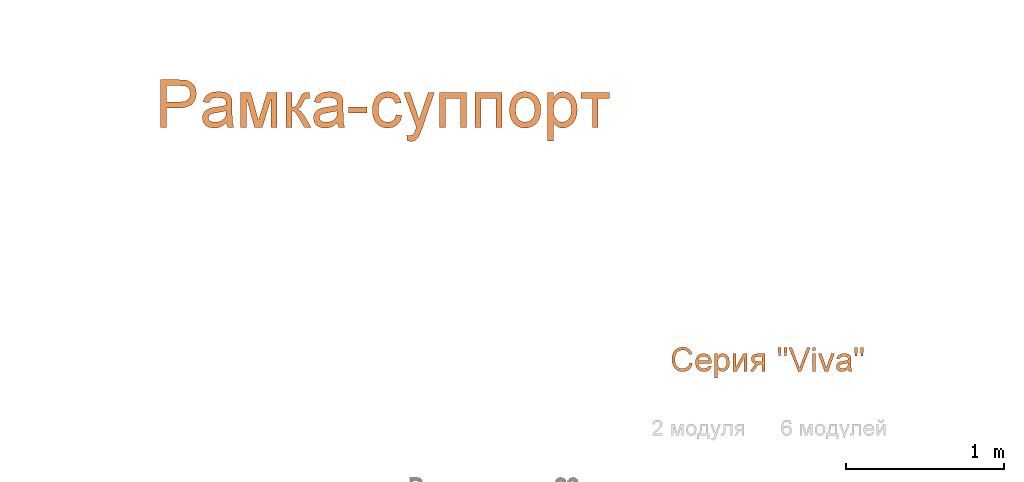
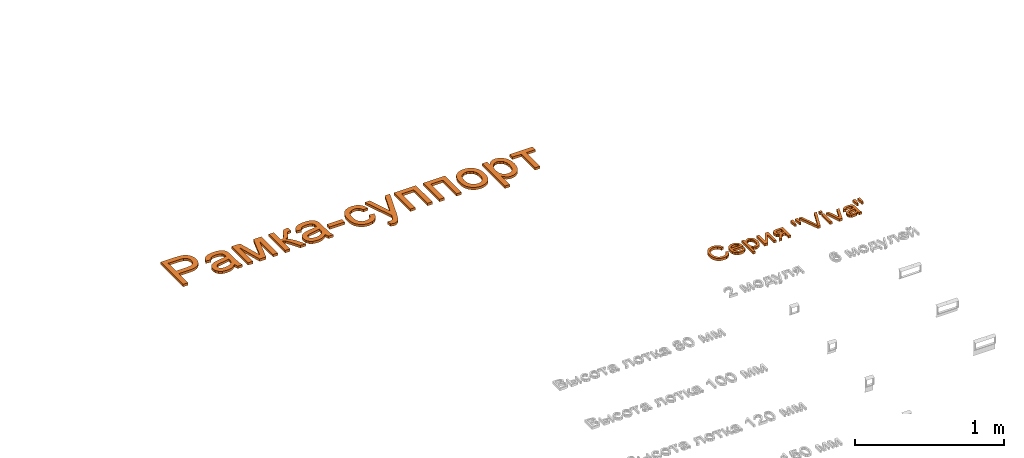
# One storey, part 21 of 71: 2 proxies.
"""IFC2X3 building model written with IfcOpenShell, lengths in millimetres."""

from ifc_helpers import new_model, entity, si_unit, converted_unit, derived_unit, direction, frame, frame_2d, origin, place, context, subcontext, project, spatial, polyline, rectangle, outline, extrude, element, save


model = new_model("IFC2X3")

# Units and contexts
model_context = context("Model", 3, precision=0.01, world=origin(), true_north=direction((6.12303176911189e-17, 1.0)))
body_context = subcontext(model_context, "Body", "Model", "MODEL_VIEW")
ifc_project = project(units=[si_unit("LENGTHUNIT", "METRE", prefix="MILLI"), si_unit("AREAUNIT", "SQUARE_METRE"), si_unit("VOLUMEUNIT", "CUBIC_METRE"), converted_unit("PLANEANGLEUNIT", "DEGREE", entity("IfcRatioMeasure", 0.0174532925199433), si_unit("PLANEANGLEUNIT", "RADIAN"), dimensions=[0, 0, 0, 0, 0, 0, 0]), si_unit("MASSUNIT", "GRAM", prefix="KILO"), derived_unit("MASSDENSITYUNIT", [(si_unit("MASSUNIT", "GRAM", prefix="KILO"), 1), (si_unit("LENGTHUNIT", "METRE"), -3)]), si_unit("TIMEUNIT", "SECOND"), si_unit("FREQUENCYUNIT", "HERTZ"), si_unit("THERMODYNAMICTEMPERATUREUNIT", "DEGREE_CELSIUS"), derived_unit("THERMALTRANSMITTANCEUNIT", [(si_unit("MASSUNIT", "GRAM", prefix="KILO"), 1), (si_unit("THERMODYNAMICTEMPERATUREUNIT", "KELVIN"), -1), (si_unit("TIMEUNIT", "SECOND"), -3)]), derived_unit("VOLUMETRICFLOWRATEUNIT", [(si_unit("LENGTHUNIT", "METRE"), 3), (si_unit("TIMEUNIT", "SECOND"), -1)]), si_unit("ELECTRICCURRENTUNIT", "AMPERE"), si_unit("ELECTRICVOLTAGEUNIT", "VOLT"), si_unit("POWERUNIT", "WATT"), si_unit("FORCEUNIT", "NEWTON", prefix="KILO"), si_unit("ILLUMINANCEUNIT", "LUX"), si_unit("LUMINOUSFLUXUNIT", "LUMEN"), si_unit("LUMINOUSINTENSITYUNIT", "CANDELA"), derived_unit("USERDEFINED", [(si_unit("MASSUNIT", "GRAM", prefix="KILO"), -1), (si_unit("LENGTHUNIT", "METRE"), -2), (si_unit("TIMEUNIT", "SECOND"), 3), (si_unit("LUMINOUSFLUXUNIT", "LUMEN"), 1)]), derived_unit("LINEARVELOCITYUNIT", [(si_unit("LENGTHUNIT", "METRE"), 1), (si_unit("TIMEUNIT", "SECOND"), -1)]), si_unit("PRESSUREUNIT", "PASCAL"), derived_unit("USERDEFINED", [(si_unit("LENGTHUNIT", "METRE"), -2), (si_unit("MASSUNIT", "GRAM", prefix="KILO"), 1), (si_unit("TIMEUNIT", "SECOND"), -2)])], contexts=[model_context])

# Site, building, storey
site_placement = place(None, origin())
site = spatial("IfcSite", under=ifc_project, at=site_placement, Name="Default", CompositionType="ELEMENT")
building_placement = place(site_placement, origin())
building = spatial("IfcBuilding", under=site, at=building_placement, Name="Наименование здания", CompositionType="ELEMENT")
storey_placement = place(building_placement, origin())
storey = spatial("IfcBuildingStorey", under=building, at=storey_placement, Name="Этаж 01", CompositionType="ELEMENT", Elevation=0.0)

# Proxies
proxy_1_placement = place(storey_placement, origin())
element("IfcBuildingElementProxy", 1, at=proxy_1_placement, inside=storey, Name="Текст модели:300 мм Arial", ObjectType="Текст модели:300 мм Arial", context=body_context, shape_type="SweptSolid", body=[
    extrude(outline(polyline([(-152.936822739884, -188.889470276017), (-115.265706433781, -188.889470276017), (-115.265706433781, -66.4583422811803), (-38.6726750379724, -66.4583422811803), (-9.4743409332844, -64.7936762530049), (14.8449582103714, -59.7996781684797), (34.2852223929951, -51.4763480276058), (48.8464516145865, -39.82368583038), (59.4529493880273, -25.765995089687), (67.0290192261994, -10.2275793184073), (71.5746611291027, 6.79156148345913), (73.089875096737, 25.2914273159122), (70.8457949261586, 46.7481446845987), (64.1135544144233, 66.3838461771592), (53.6932969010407, 83.0305064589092), (40.3851657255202, 95.5201001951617), (23.8580670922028, 104.24810053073), (3.78090720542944, 109.609980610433), (-41.24784900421, 112.479460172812), (-152.936822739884, 112.479460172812), (-152.936822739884, -188.889470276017)]), holes=[polyline([(-115.265706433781, -28.787225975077), (-115.265706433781, 74.8083438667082), (-37.3482998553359, 74.8083438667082), (0.322816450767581, 72.2331699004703), (14.55065261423, 65.9055995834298), (25.7434623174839, 55.1634453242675), (32.9999346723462, 40.8896239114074), (35.4187587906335, 23.9670521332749), (31.3168745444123, 1.69179732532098), (19.0112218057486, -14.954862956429), (-3.06169790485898, -25.329135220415), (-36.4653830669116, -28.787225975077), (-115.265706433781, -28.787225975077)])]), frame((449.396579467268, -9460.24166573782, 0.0)), (0.0, 0.0, 1.0), 20.0),
    extrude(outline(polyline([(109.632642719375, 21.6400019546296), (139.414275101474, 21.6400019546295), (151.326928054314, 57.3779608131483), (118.904502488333, 60.2746899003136), (56.211839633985, 79.1557794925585), (11.7487931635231, 93.9767949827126), (-20.103593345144, 102.655348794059), (-34.933333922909, 102.809492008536), (-48.0122402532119, 99.7818866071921), (-60.1401120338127, 92.6854820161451), (-72.1167489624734, 80.6332276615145), (-83.2645025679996, 63.0696262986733), (-92.9057243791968, 39.4391806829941), (-99.5047989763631, 13.6507300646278), (-101.433043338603, -10.1076835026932), (-98.7108160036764, -30.9664596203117), (-91.3584755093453, -48.055997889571), (-79.0880939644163, -62.4320339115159), (-61.6117434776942, -75.1503032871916), (-45.2318456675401, -40.9014260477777), (-57.7232627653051, -28.8462633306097), (-63.8802662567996, -15.5288712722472), (-64.0809432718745, 1.05752027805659), (-58.7033809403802, 22.9196814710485), (-48.4543113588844, 45.0581371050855), (-35.2038116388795, 58.9833769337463), (-22.308132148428, 62.8863994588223), (-5.53851375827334, 60.0303874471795), (2.34896544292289, 57.1685587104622), (0.499246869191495, 29.5158477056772), (-6.02711866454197, -8.90943813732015), (-10.9597015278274, -41.6226999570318), (-7.57436753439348, -70.5550904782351), (-1.92341912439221, -83.6165466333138), (6.95581170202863, -95.3692396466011), (18.6997796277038, -104.984286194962), (32.9449393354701, -111.632802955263), (58.4832707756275, -115.114112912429), (82.3289352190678, -107.968266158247), (102.393728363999, -90.1778125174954), (116.58944590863, -61.7253018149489), (121.426052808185, -41.3405887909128), (122.301469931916, -21.0896604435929), (118.581674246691, -0.315226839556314), (109.632642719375, 21.6400019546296)]), holes=[polyline([(38.156725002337, 45.4653078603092), (48.2080259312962, 41.8822052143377), (63.7910324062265, 35.1173539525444), (73.9644845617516, 27.0146559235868), (82.0235571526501, 13.7030805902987), (86.8892476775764, -3.19741411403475), (87.6483302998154, -22.2966308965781), (83.3875791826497, -42.2043724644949), (75.4157574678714, -59.6632727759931), (65.2277634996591, -70.8575601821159), (53.8589743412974, -75.938469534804), (42.3447670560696, -75.0572356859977), (30.222712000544, -65.5876072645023), (25.4413639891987, -48.5213358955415), (29.8969753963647, -15.8429744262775), (38.156725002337, 45.4653078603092)])]), frame((655.643641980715, -9523.71431118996, 0.0), z_axis=(0.0, 0.0, 1.0), x_axis=(0.316227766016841, -0.948683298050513, 0.0)), (0.0, 0.0, 1.0), 20.0),
    extrude(outline(polyline([(-121.751961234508, -115.350814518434), (99.5658470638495, -115.350814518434), (99.5658470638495, -77.6796982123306), (-87.1710536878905, -77.6796982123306), (99.5658470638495, -25.8819132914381), (99.5658470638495, 23.5614268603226), (-78.6361913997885, 77.7136565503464), (99.5658470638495, 77.7136565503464), (99.5658470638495, 115.38477285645), (-121.751961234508, 115.38477285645), (-121.751961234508, 53.2862920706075), (55.4200076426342, -0.571632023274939), (-121.751961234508, -50.5300069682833), (-121.751961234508, -115.350814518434)])), frame((915.661751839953, -9549.56528894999, 0.0), z_axis=(0.0, 0.0, 1.0), x_axis=(0.0, -1.0, 0.0)), (0.0, 0.0, 1.0), 20.0),
    extrude(outline(polyline([(-92.1976330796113, -85.1594264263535), (129.120175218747, -85.1594264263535), (129.120175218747, -47.48831012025), (25.5246053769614, -47.48831012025), (27.2628478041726, -36.5438207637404), (32.4775750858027, -27.2548003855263), (61.2091589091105, -7.38917264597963), (129.120175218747, 32.1213536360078), (129.120175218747, 74.9428178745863), (59.7376309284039, 34.62295120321), (28.8539374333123, 11.2992327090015), (19.4959391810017, -0.528173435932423), (14.1938399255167, -12.4659441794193), (1.0604526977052, 8.83442334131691), (-25.7581447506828, 24.0279497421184), (-50.5533912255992, 36.9773959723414), (-54.5265167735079, 55.371495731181), (-54.3057875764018, 65.5250387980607), (-92.1976330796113, 65.5250387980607), (-92.1976330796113, 58.3145516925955), (-89.3281535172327, 30.7601902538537), (-78.2549054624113, 15.6034520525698), (-44.2258209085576, -1.57663712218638), (-18.0326228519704, -13.4776196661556), (-4.78887102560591, -22.2516052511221), (0.287900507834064, -32.1660250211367), (1.98015768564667, -47.48831012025), (-92.1976330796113, -47.48831012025), (-92.1976330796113, -85.1594264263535)])), frame((1172.71262558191, -9520.01096079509, 0.0), z_axis=(0.0, 0.0, 1.0), x_axis=(0.0, -1.0, 0.0)), (0.0, 0.0, 1.0), 20.0),
    extrude(outline(polyline([(109.632642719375, 21.6400019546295), (139.414275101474, 21.6400019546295), (151.326928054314, 57.3779608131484), (118.904502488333, 60.2746899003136), (56.211839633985, 79.1557794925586), (11.7487931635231, 93.9767949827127), (-20.103593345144, 102.655348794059), (-34.933333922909, 102.809492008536), (-48.0122402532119, 99.7818866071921), (-60.1401120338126, 92.6854820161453), (-72.1167489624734, 80.6332276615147), (-83.2645025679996, 63.0696262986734), (-92.9057243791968, 39.4391806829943), (-99.5047989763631, 13.6507300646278), (-101.433043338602, -10.1076835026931), (-98.7108160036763, -30.9664596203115), (-91.3584755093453, -48.0559978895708), (-79.0880939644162, -62.4320339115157), (-61.6117434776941, -75.1503032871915), (-45.23184566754, -40.9014260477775), (-57.7232627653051, -28.8462633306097), (-63.8802662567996, -15.5288712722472), (-64.0809432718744, 1.05752027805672), (-58.7033809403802, 22.9196814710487), (-48.4543113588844, 45.0581371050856), (-35.2038116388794, 58.9833769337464), (-22.3081321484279, 62.8863994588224), (-5.53851375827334, 60.0303874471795), (2.34896544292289, 57.1685587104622), (0.499246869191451, 29.5158477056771), (-6.02711866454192, -8.90943813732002), (-10.9597015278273, -41.6226999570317), (-7.57436753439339, -70.5550904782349), (-1.92341912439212, -83.6165466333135), (6.95581170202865, -95.369239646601), (18.6997796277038, -104.984286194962), (32.9449393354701, -111.632802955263), (58.4832707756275, -115.114112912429), (82.3289352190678, -107.968266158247), (102.393728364, -90.1778125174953), (116.58944590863, -61.7253018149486), (121.426052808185, -41.3405887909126), (122.301469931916, -21.0896604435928), (118.581674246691, -0.315226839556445), (109.632642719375, 21.6400019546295)]), holes=[polyline([(38.156725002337, 45.4653078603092), (48.2080259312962, 41.8822052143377), (63.7910324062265, 35.1173539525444), (73.9644845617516, 27.014655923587), (82.0235571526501, 13.7030805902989), (86.8892476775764, -3.19741411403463), (87.6483302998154, -22.296630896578), (83.3875791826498, -42.2043724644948), (75.4157574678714, -59.6632727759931), (65.2277634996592, -70.8575601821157), (53.8589743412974, -75.938469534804), (42.3447670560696, -75.0572356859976), (30.222712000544, -65.5876072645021), (25.4413639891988, -48.5213358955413), (29.8969753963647, -15.8429744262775), (38.156725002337, 45.4653078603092)])]), frame((1357.26818318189, -9523.71431118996, 0.0), z_axis=(0.0, 0.0, 1.0), x_axis=(0.316227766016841, -0.948683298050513, 0.0)), (0.0, 0.0, 1.0), 20.0),
    extrude(rectangle(XDim=117.722238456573, YDim=37.6711163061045, at=frame_2d((1.35003119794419e-13, 0.0), x_axis=(1.0, 0.0))), frame((1541.96103959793, -9540.82667663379, 0.0)), (0.0, 0.0, 1.0), 20.0),
    extrude(outline(polyline([(7.89345199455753, -67.9185040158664), (1.30746610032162, -105.307157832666), (36.419533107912, -105.129492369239), (66.426166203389, -93.7180090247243), (89.6203783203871, -72.4909647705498), (104.295182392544, -42.8666165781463), (108.744041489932, -22.1296295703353), (109.012197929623, -2.39079348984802), (105.099651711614, 16.3498916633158), (97.0064028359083, 34.0924258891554), (84.7908025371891, 50.1981439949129), (68.5112020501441, 64.0283807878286), (48.1676013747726, 75.5831362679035), (23.7600005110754, 84.8624104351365), (-9.1258523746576, 91.9768700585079), (-39.4342298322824, 92.2735186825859), (-66.133380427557, 85.2903014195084), (-88.1915527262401, 70.5651633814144), (-105.030198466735, 50.0081893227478), (-116.070769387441, 25.529463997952), (-121.043524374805, -6.24521208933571), (-115.34811938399, -34.6264209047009), (-99.4495521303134, -58.6241333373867), (-73.8128203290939, -77.2483202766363), (-58.2261192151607, -42.6312523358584), (-71.9223983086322, -31.2637177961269), (-80.0505148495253, -17.6267753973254), (-82.7485339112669, -2.29379634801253), (-80.1545205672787, 14.1618481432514), (-68.5424602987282, 36.0587922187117), (-49.5129801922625, 50.4174204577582), (-22.8433391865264, 55.3984734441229), (11.6892037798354, 49.1626917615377), (44.2232338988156, 34.8429282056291), (63.6316107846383, 15.9617898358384), (71.3115889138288, -6.25578690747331), (68.6604227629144, -30.5848655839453), (60.1596823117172, -48.378067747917), (47.1729034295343, -61.113819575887), (29.7381415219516, -67.9185040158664), (7.89345199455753, -67.9185040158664)])), frame((1721.88108697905, -9541.54818519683, 0.0), z_axis=(0.0, 0.0, -1.0), x_axis=(-0.29429293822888, -0.955715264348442, 0.0)), (0.0, 0.0, -1.0), 20.0),
    extrude(outline(polyline([(-30.233044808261, -116.261559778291), (-6.72714131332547, -116.261559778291), (8.40142307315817, -111.009090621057), (20.3397113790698, -102.090769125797), (29.5333604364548, -89.1150797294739), (36.4280070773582, -71.6905068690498), (46.1891809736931, -19.5286581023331), (76.2647156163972, 217.925070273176), (37.6271962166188, 210.024746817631), (20.6453238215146, 75.2798294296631), (14.85250561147, 29.7871028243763), (-9.48248966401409, 74.9772109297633), (-75.6903047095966, 186.854395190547), (-114.616163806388, 178.895114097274), (7.98624384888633, -21.1069264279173), (6.93053364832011, -30.6350334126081), (2.39540160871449, -59.8745671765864), (-6.02379511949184, -73.4241147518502), (-22.7076550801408, -81.0785894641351), (-42.1130088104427, -81.667014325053), (-30.233044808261, -116.261559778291)])), frame((1908.01282184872, -9626.04286199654, 0.0), z_axis=(0.0, 0.0, 1.0), x_axis=(0.979728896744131, -0.200327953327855, 0.0)), (0.0, 0.0, 1.0), 20.0),
    extrude(outline(polyline([(-120.076683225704, -84.7600116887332), (101.241125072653, -84.7600116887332), (101.241125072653, -47.0888953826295), (-82.4055669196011, -47.0888953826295), (-82.4055669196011, 47.0888953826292), (101.241125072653, 47.0888953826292), (101.241125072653, 84.7600116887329), (-120.076683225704, 84.7600116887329), (-120.076683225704, -84.7600116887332)])), frame((2142.34445572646, -9547.89001094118, 0.0), z_axis=(0.0, 0.0, 1.0), x_axis=(0.0, -1.0, 0.0)), (0.0, 0.0, 1.0), 20.0),
    extrude(outline(polyline([(-120.076683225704, -84.7600116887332), (101.241125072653, -84.7600116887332), (101.241125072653, -47.0888953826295), (-82.4055669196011, -47.0888953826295), (-82.4055669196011, 47.0888953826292), (101.241125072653, 47.0888953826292), (101.241125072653, 84.7600116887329), (-120.076683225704, 84.7600116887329), (-120.076683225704, -84.7600116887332)])), frame((2368.37115356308, -9547.89001094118, 0.0), z_axis=(0.0, 0.0, 1.0), x_axis=(0.0, -1.0, 0.0)), (0.0, 0.0, 1.0), 20.0),
    extrude(outline(polyline([(-0.229377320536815, -95.3874471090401), (26.1479590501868, -95.3874471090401), (49.4793057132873, -91.7658632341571), (69.7646626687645, -84.5226954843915), (87.0040299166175, -73.6579438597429), (100.935147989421, -59.8043433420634), (111.295757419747, -43.5946289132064), (118.085858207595, -25.0288005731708), (121.305450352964, -4.10685832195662), (119.659258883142, 22.644595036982), (111.137222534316, 47.6856680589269), (96.2709912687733, 69.2676051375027), (75.592215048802, 85.6416506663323), (47.2756049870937, 96.6589942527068), (9.49587219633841, 102.170825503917), (-15.444044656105, 102.059101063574), (-37.7671193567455, 98.3167797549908), (-57.4733519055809, 90.9438615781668), (-74.5627423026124, 79.9403465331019), (-88.5474044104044, 66.0072735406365), (-98.9394520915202, 49.8456815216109), (-105.738885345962, 31.4555704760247), (-108.945704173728, 10.8369404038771), (-108.636916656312, -8.04907106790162), (-105.175445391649, -25.6466417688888), (-98.5612903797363, -41.9557716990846), (-88.7944516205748, -56.976460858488), (-72.9824052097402, -72.2927248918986), (-52.9508773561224, -83.799977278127), (-28.6998680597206, -91.4982180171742), (-0.229377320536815, -95.3874471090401)]), holes=[polyline([(2.13700462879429, -57.7906566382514), (-31.5841834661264, -51.2335049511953), (-54.9205080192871, -36.6132063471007), (-68.1007471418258, -16.0346845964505), (-71.3536789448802, 8.39713653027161), (-64.9677103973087, 31.9545293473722), (-49.1835960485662, 50.643985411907), (-24.4231993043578, 62.2256502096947), (8.89161642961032, 64.4596692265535), (43.3745569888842, 57.8530781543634), (67.0871689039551, 43.2083576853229), (80.4074567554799, 22.6576120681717), (83.7134251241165, -1.66705444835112), (77.3113738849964, -25.4722462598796), (61.5266638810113, -44.170880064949), (36.4412293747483, -55.6485016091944), (2.13700462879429, -57.7906566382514)])]), frame((2595.42209618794, -9532.52327343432, 0.0), z_axis=(0.0, 0.0, 1.0), x_axis=(0.0647659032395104, -0.997900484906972, 0.0)), (0.0, 0.0, 1.0), 20.0),
    extrude(outline(polyline([(-99.8542099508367, -188.324679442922), (-62.1830936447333, -188.324679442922), (-62.1830936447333, -74.1341081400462), (-51.5421069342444, -87.6445744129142), (-38.3075521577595, -98.5982608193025), (-22.847311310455, -105.854733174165), (-5.52926638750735, -108.273557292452), (18.8889010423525, -104.659116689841), (42.1114519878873, -93.8157948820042), (62.0506561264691, -76.1942473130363), (76.6187831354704, -52.2451294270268), (85.5307244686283, -23.4307721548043), (88.5013715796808, 8.78649357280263), (85.8710153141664, 39.0815758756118), (77.9799465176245, 66.8382724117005), (64.9201356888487, 90.345931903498), (46.7835533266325, 107.893903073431), (24.5082985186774, 118.819998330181), (-0.967529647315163, 122.462030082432), (-20.0973933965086, 119.859264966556), (-36.1370483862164, 112.050969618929), (-49.8958350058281, 99.0371440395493), (-62.1830936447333, 80.8177882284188), (-62.1830936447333, 117.753140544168), (-99.8542099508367, 117.753140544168), (-99.8542099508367, -188.324679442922)]), holes=[polyline([(-62.1830936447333, 5.32840281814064), (-57.8328890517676, 39.4954431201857), (-44.7822752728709, 64.4470394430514), (-26.084672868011, 79.7049451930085), (-4.79350239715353, 84.7909137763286), (16.4148946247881, 80.0084478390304), (34.4227182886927, 65.6610500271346), (46.7283710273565, 41.7119321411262), (50.8302552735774, 8.12430598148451), (46.6272034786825, -26.9164540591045), (34.0180480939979, -51.3990008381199), (15.5227807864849, -65.8015809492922), (-6.33860677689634, -70.6024409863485), (-27.8505064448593, -65.9671278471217), (-45.885921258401, -52.0611884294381), (-58.1088005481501, -28.4431643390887), (-62.1830936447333, 5.32840281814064)])]), frame((2840.22763703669, -9545.56646825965, 0.0)), (0.0, 0.0, 1.0), 20.0),
    extrude(outline(polyline([(-74.165010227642, -89.4689012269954), (-36.4938939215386, -89.4689012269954), (-36.4938939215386, -18.8355581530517), (147.152798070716, -18.8355581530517), (147.152798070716, 18.8355581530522), (-36.4938939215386, 18.8355581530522), (-36.4938939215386, 89.4689012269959), (-74.165010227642, 89.4689012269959), (-74.165010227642, -89.4689012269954)])), frame((3041.74235753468, -9501.97833794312, 0.0), z_axis=(0.0, 0.0, 1.0), x_axis=(0.0, -1.0, 0.0)), (0.0, 0.0, 1.0), 20.0),
])
proxy_2_placement = place(storey_placement, origin())
element("IfcBuildingElementProxy", 2, at=proxy_2_placement, inside=storey, Name="Текст модели:150 мм Arial", ObjectType="Текст модели:150 мм Arial", context=body_context, shape_type="SweptSolid", body=[
    extrude(outline(polyline([(2.68252101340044, -55.5272408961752), (0.569895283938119, -74.8636369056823), (24.1738038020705, -74.4885152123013), (43.9938289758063, -67.3949902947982), (59.5002128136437, -54.1006478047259), (70.1631973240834, -35.1230733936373), (75.5684851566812, -13.8106158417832), (74.7558263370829, 5.04294074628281), (68.1237380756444, 21.7638876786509), (56.070737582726, 36.67851626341), (39.964932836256, 49.0882033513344), (21.1744318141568, 58.2943257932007), (-0.168059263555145, 63.9714850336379), (-20.2818307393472, 64.4164020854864), (-38.4798456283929, 59.7431641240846), (-54.0750669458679, 50.0658583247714), (-66.5405339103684, 36.3111227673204), (-75.3492857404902, 19.4055955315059), (-79.9019211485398, -0.950856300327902), (-77.7012035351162, -20.0337571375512), (-69.0662723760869, -37.152354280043), (-54.3162671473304, -51.6158950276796), (-43.4621992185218, -35.5812125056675), (-54.0046473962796, -24.6190736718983), (-59.6669952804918, -12.9440693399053), (-60.7285861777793, -0.332714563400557), (-57.4687633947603, 13.4384756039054), (-49.8682812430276, 27.8608393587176), (-39.5197541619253, 38.1582391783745), (-27.1289583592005, 44.2580751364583), (-13.4016700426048, 46.0877473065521), (14.4845942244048, 40.6867797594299), (30.2608677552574, 33.2090290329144), (42.830410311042, 23.9046375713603), (51.5986154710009, 12.8261465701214), (55.9708768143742, 0.0260972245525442), (56.3667010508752, -13.4889612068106), (53.2055948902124, -26.7124794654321), (45.4648414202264, -40.5952158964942), (34.2795364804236, -50.3750178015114), (19.9264922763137, -55.5272408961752), (2.68252101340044, -55.5272408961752)])), frame((3587.40453608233, -11113.7067682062, 0.0), z_axis=(0.0, 0.0, -1.0), x_axis=(-0.353343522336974, -0.935493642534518, 0.0)), (0.0, 0.0, -1.0), 20.0),
    extrude(outline(polyline([(-12.1519235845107, -30.5627594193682), (-23.3028322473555, -45.4710024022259), (-8.67600558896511, -50.3662606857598), (6.18277634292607, -49.969826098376), (20.8164252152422, -44.1721168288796), (34.7678526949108, -32.8635510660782), (47.4570640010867, -14.3885693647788), (51.243072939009, 5.61202992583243), (45.9060763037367, 25.8663302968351), (31.2262708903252, 45.1024152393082), (10.9154740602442, 59.6770093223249), (-9.99269287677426, 64.6676720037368), (-29.9463894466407, 60.6331852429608), (-47.393775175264, 48.1323309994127), (-58.8653278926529, 30.7635073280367), (-61.9660241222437, 11.0147969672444), (-56.156056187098, -9.52443743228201), (-40.8956164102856, -29.2648332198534), (-37.1706876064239, -32.7160206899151), (21.6964908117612, 28.1133970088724), (29.5607979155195, 15.9656989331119), (31.7422008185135, 3.31507577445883), (28.7208128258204, -8.97205129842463), (20.9767472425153, -20.029261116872), (5.30526907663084, -30.5627594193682), (-12.1519235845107, -30.5627594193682)]), holes=[polyline([(8.16121838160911, 41.2120477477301), (-37.6840592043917, -6.16140575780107), (-43.0633748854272, 2.58957596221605), (-44.7058228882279, 11.1286426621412), (-41.8277013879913, 23.6248066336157), (-33.8073361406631, 35.0865524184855), (-23.7122716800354, 42.98550357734), (-12.6145549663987, 46.8552978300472), (-1.62109020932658, 46.3720932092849), (8.16121838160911, 41.2120477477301)])]), frame((3727.8448471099, -11143.9162327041, 0.0), z_axis=(0.0, 0.0, -1.0), x_axis=(-0.695421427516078, -0.718602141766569, 0.0)), (0.0, 0.0, -1.0), 20.0),
    extrude(outline(polyline([(-51.3898957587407, -92.5503727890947), (-32.5543376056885, -92.5503727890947), (-32.5543376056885, -35.4550871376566), (-20.6165668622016, -47.6871634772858), (-4.22742397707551, -52.5248117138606), (7.98165973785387, -50.7175914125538), (19.5929352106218, -45.2959305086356), (29.5625372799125, -36.4851567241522), (36.8466007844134, -24.5105977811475), (41.302571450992, -10.1034191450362), (42.7878950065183, 6.0052137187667), (37.5271824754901, 35.0311031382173), (30.9972770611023, 46.7849328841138), (21.9289858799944, 55.558918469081), (10.7913584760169, 61.0219660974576), (-1.94655560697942, 62.8429819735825), (-19.53131497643, 57.6374517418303), (-32.5543376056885, 42.0208610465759), (-32.5543376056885, 60.4885372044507), (-51.3898957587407, 60.4885372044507), (-51.3898957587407, -92.5503727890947)]), holes=[polyline([(-32.5543376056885, 4.27616834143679), (-30.3792353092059, 21.3596884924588), (-23.8539284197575, 33.8354866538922), (-14.5051272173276, 41.4644395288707), (-3.85954198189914, 44.0074238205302), (6.74465652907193, 41.61619085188), (15.7485683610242, 34.4424919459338), (21.9013947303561, 22.467933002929), (23.9523368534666, 5.67411992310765), (21.8508109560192, -11.8462600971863), (15.5462332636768, -24.0875334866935), (6.29859960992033, -31.2888235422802), (-4.63209417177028, -33.6892535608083), (-15.3880440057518, -31.3715969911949), (-24.4057514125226, -24.4186272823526), (-30.5171910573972, -12.6096152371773), (-32.5543376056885, 4.27616834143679)])]), frame((3847.53976079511, -11139.2296919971, 0.0)), (0.0, 0.0, 1.0), 20.0),
    extrude(outline(polyline([(-55.3809555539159, -44.7638811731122), (55.2779485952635, -44.7638811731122), (55.2779485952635, -20.1157874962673), (-28.5991463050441, 25.8694619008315), (55.2779485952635, 25.8694619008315), (55.2779485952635, 44.7050200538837), (-55.3809555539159, 44.7050200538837), (-55.3809555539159, 20.35123197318), (29.0111741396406, -25.9283230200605), (-55.3809555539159, -25.9283230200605), (-55.3809555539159, -44.7638811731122)])), frame((3956.28153989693, -11134.1221103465, 0.0), z_axis=(0.0, 0.0, 1.0), x_axis=(0.0, -1.0, 0.0)), (0.0, 0.0, 1.0), 20.0),
    extrude(outline(polyline([(-56.4073463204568, -58.5456604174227), (-7.25831176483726, -58.5456604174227), (9.02966357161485, -56.3291713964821), (20.9582372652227, -49.6797043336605), (28.2698919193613, -39.4709789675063), (30.7071101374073, -26.576715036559), (28.9228824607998, -15.2091613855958), (23.5701994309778, -5.23955931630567), (14.5203023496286, 2.25603633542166), (1.64443251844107, 6.2015707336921), (9.33316621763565, 11.0208248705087), (17.6840875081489, 21.8733437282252), (36.5932220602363, 52.1132437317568), (14.8146079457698, 52.1132437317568), (-0.194977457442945, 28.2009140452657), (-13.3283646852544, 12.1244708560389), (-27.3078805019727, 9.73323788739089), (-37.5717881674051, 9.73323788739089), (-37.5717881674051, 52.1132437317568), (-56.4073463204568, 52.1132437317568), (-56.4073463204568, -58.5456604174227)]), holes=[polyline([(-37.5717881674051, -39.7101022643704), (-37.5717881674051, -9.10232026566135), (-18.2947716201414, -9.10232026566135), (5.23128197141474, -12.9834753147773), (10.2114844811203, -17.9636778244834), (11.8715519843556, -25.1419752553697), (7.36499754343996, -35.3507006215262), (0.0855325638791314, -38.6202518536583), (-12.7397534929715, -39.7101022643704), (-37.5717881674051, -39.7101022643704)])]), frame((4057.59256254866, -11137.28681521, 0.0), z_axis=(0.0, 0.0, 1.0), x_axis=(-1.0, 0.0, 0.0)), (0.0, 0.0, 1.0), 20.0),
    extrude(outline(polyline([(-4.89896190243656, -27.7505651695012), (5.21779296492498, -27.7505651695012), (9.33807131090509, 1.34890064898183), (9.33807131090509, 26.4016645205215), (-9.4974868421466, 26.4016645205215), (-9.4974868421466, 1.34890064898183), (-4.89896190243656, -27.7505651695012)])), frame((4205.90296263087, -11065.1172582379, 0.0)), (0.0, 0.0, 1.0), 20.0),
    extrude(outline(polyline([(-8.73106601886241, -78.2934637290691), (10.7298915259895, -78.2934637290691), (68.1562709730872, 72.3910014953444), (47.9963376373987, 72.3910014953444), (7.75004736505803, -36.1709752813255), (-0.269780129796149, -60.6351279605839), (-8.39997222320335, -36.1709752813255), (-48.5358978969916, 72.3910014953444), (-68.6958312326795, 72.3910014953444), (-8.73106601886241, -78.2934637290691)])), frame((4332.05583014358, -11111.1065952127, 0.0)), (0.0, 0.0, 1.0), 20.0),
    extrude(rectangle(XDim=18.8355581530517, YDim=110.658904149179, at=frame_2d((-2.70894418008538e-13, 0.0), x_axis=(1.0, 0.0))), frame((4424.78661839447, -11134.0706068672, 0.0)), (0.0, 0.0, 1.0), 20.0),
    extrude(outline(polyline([(-11.7354356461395, -61.3545416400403), (12.1401058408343, -61.3545416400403), (50.5837743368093, 49.3043625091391), (30.6445701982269, 49.3043625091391), (6.91618150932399, -18.2387718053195), (-0.0367881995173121, -39.2816219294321), (-7.13691070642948, -16.98797302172), (-30.7181465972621, 49.3043625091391), (-50.657350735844, 49.3043625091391), (-11.7354356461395, -61.3545416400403)])), frame((4501.34286159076, -11128.0455173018, 0.0)), (0.0, 0.0, 1.0), 20.0),
    extrude(outline(polyline([(49.6524096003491, 10.0181831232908), (64.5432257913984, 10.0181831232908), (70.4995522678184, 27.8871625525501), (54.2883394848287, 29.3355270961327), (22.9420080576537, 38.7760718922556), (0.710484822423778, 46.1865796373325), (-15.2157084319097, 50.5258565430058), (-29.1700318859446, 49.0891254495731), (-41.2222862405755, 39.5147959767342), (-51.6167739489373, 18.9177724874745), (-55.8804334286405, -5.85565960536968), (-50.8431495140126, -24.8298167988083), (-35.9697834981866, -38.3769694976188), (-27.7798345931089, -21.2525308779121), (-37.1040448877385, -8.56625349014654), (-34.5156022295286, 10.6580228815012), (-29.3910674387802, 21.7272506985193), (-22.7658175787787, 28.6898706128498), (-16.3179778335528, 30.6413818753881), (-7.93316863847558, 29.2133758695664), (-3.98942903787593, 27.7824615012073), (-8.17747109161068, -5.25653692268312), (-10.6437625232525, -21.6131678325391), (-8.95109552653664, -36.0793630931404), (-1.68600590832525, -48.4864376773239), (11.308557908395, -56.6182193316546), (24.0777236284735, -58.3588743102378), (36.0005558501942, -54.7859509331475), (46.0329524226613, -45.8907241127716), (53.1308111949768, -31.6644687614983), (55.9868232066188, -11.3466480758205), (49.6524096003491, 10.0181831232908)]), holes=[polyline([(13.9144507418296, 21.9308360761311), (18.9401012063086, 20.1392847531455), (31.8183305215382, 12.7055101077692), (38.2807120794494, -2.40052491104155), (36.5298778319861, -21.904004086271), (27.4499699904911, -36.2305979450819), (16.0084717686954, -38.3304356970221), (9.947444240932, -33.5956214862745), (7.55677023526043, -25.0624858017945), (9.78457593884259, -8.72330506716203), (13.9144507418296, 21.9308360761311)])]), frame((4613.83553881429, -11131.3370062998, 0.0), z_axis=(0.0, 0.0, 1.0), x_axis=(0.316227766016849, -0.94868329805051, 0.0)), (0.0, 0.0, 1.0), 20.0),
    extrude(outline(polyline([(-4.94188146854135, -27.7505651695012), (4.99093240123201, -27.7505651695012), (9.40551634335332, 1.34890064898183), (9.40551634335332, 26.4016645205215), (-9.43004180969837, 26.4016645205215), (-9.43004180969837, 1.34890064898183), (-4.94188146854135, -27.7505651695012)])), frame((4243.50663390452, -11065.1172582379, 0.0)), (0.0, 0.0, 1.0), 20.0),
    extrude(outline(polyline([(-4.8989619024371, -27.7505651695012), (5.21779296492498, -27.7505651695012), (9.33807131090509, 1.34890064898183), (9.33807131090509, 26.4016645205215), (-9.4974868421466, 26.4016645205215), (-9.4974868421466, 1.34890064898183), (-4.8989619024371, -27.7505651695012)])), frame((4688.56414030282, -11065.1172582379, 0.0)), (0.0, 0.0, 1.0), 20.0),
    extrude(outline(polyline([(-4.9418814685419, -27.7505651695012), (4.99093240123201, -27.7505651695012), (9.40551634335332, 1.34890064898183), (9.40551634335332, 26.4016645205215), (-9.43004180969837, 26.4016645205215), (-9.43004180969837, 1.34890064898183), (-4.9418814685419, -27.7505651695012)])), frame((4726.16781157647, -11065.1172582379, 0.0)), (0.0, 0.0, 1.0), 20.0),
    extrude(rectangle(XDim=18.8355581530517, YDim=18.8355581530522, at=frame_2d((-2.70894418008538e-13, 1.08268949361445e-12), x_axis=(1.0, 0.0))), frame((4424.78661839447, -11048.1333727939, 0.0)), (0.0, 0.0, 1.0), 20.0),
])

save(model, "model.ifc")
